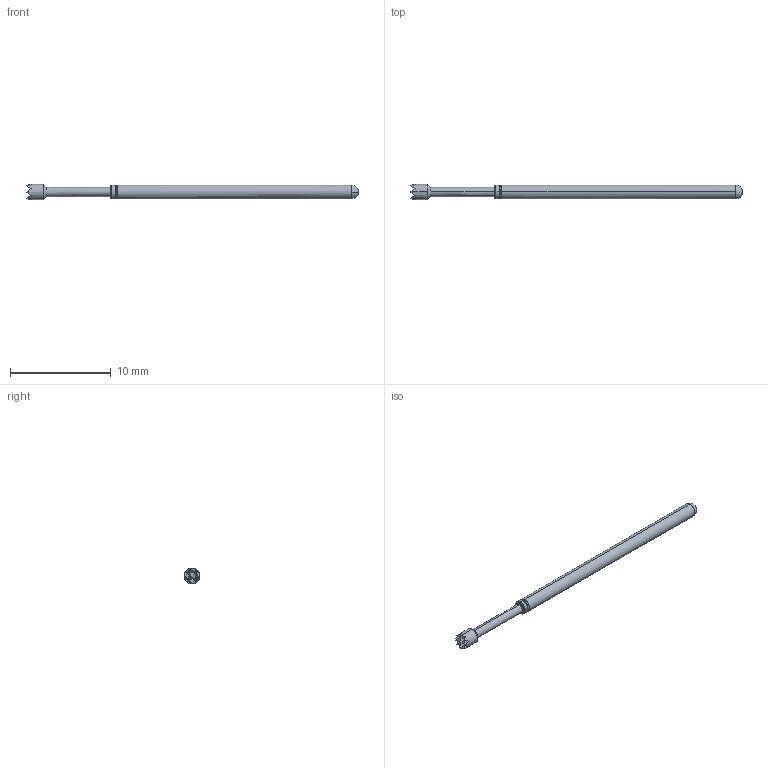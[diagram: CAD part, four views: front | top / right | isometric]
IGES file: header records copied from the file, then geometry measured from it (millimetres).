
Start section: SolidWorks IGES file using analytic representation for surfaces
Global section: file name: \\CODA-VM-SBS\RedirectedFolders\georged\My Documents\Coda\PA Series\Website\PA4H.IGS; native system: SolidWorks 2022; preprocessor: SolidWorks 2022; author: GeorgeD; date: 220614.143943; units: inch
Bounding box: 33.02 x 1.52 x 1.52 mm (x, y, z)
Surface area: 137.5 mm2 (no closed solid volume)
Topology: 0 solids, 0 shells, 50 faces, 261 edges, 261 vertices
Faces by surface type: bspline 50
